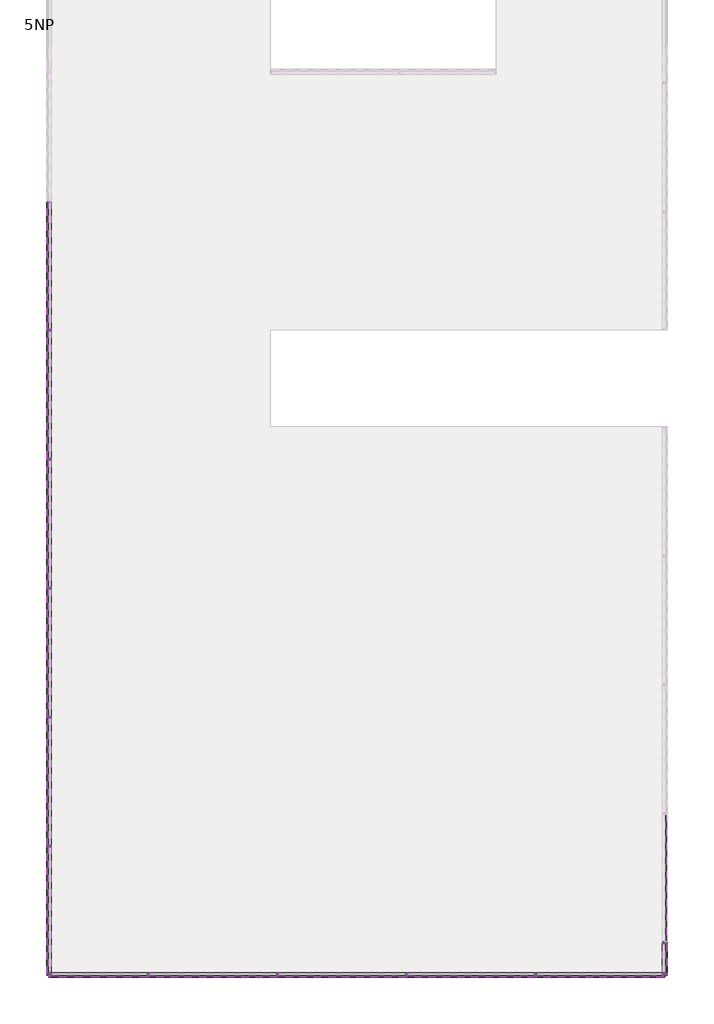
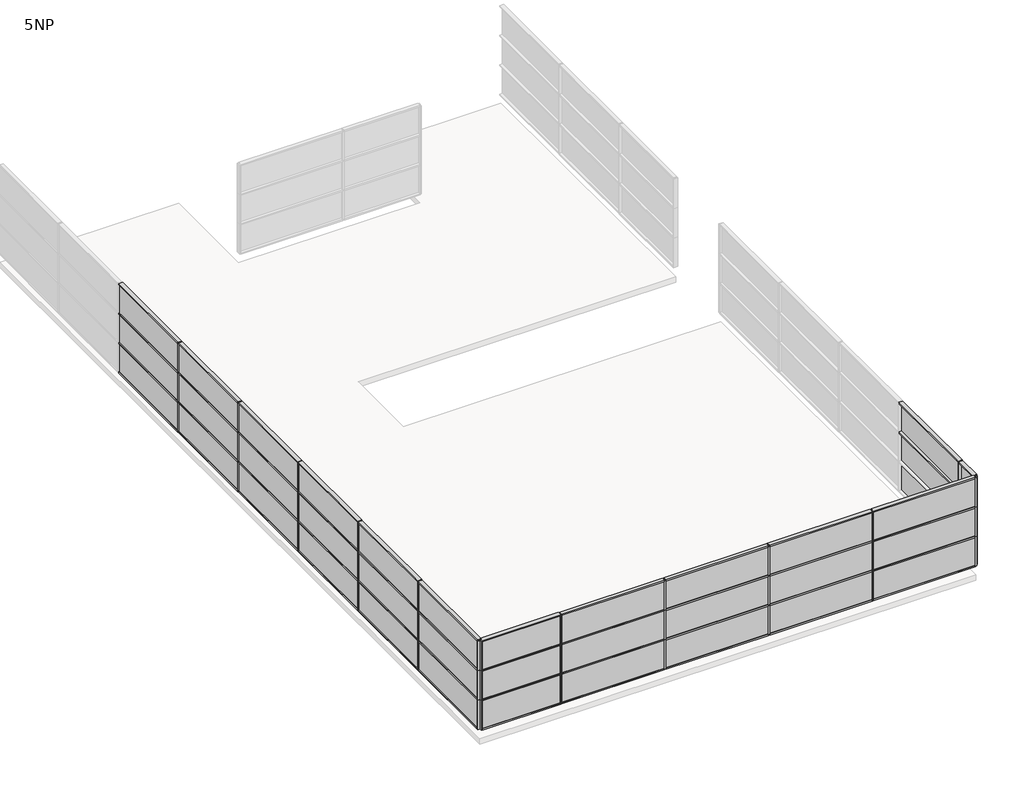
# One storey, part 1 of 3: 92 members, 39 plates.
"""IFC4 building model written with IfcOpenShell, lengths in millimetres."""

from ifc_helpers import new_model, si_unit, origin, place, context, project, spatial, transform, mapped, element, save
from components import rectangular_mullion_50_x_150mm_d99dc9be, rectangular_mullion_50_x_150mm_6588f46c, rectangular_mullion_50_x_150mm_a037c29c, rectangular_mullion_50_x_150mm_c2546fd4, rectangular_mullion_50_x_150mm_116cff39, rectangular_mullion_50_x_150mm_cd873b1a, system_panel_glazed_8e9402eb, system_panel_glazed_89ac83a7, system_panel_glazed_8c18451d, system_panel_glazed_2dc425e2

model = new_model("IFC4")

# Units and contexts
model_context = context("Model", 3, world=origin())
ifc_project = project(units=[si_unit("LENGTHUNIT", "METRE", prefix="MILLI")], contexts=[model_context])

# Site, building, storey
site = spatial("IfcSite", under=ifc_project)
building = spatial("IfcBuilding", under=site)
storey = spatial("IfcBuildingStorey", under=building, Name="5NP", Elevation=20000.0)

# Members
placement = place(None, origin())
rectangular_mullion_50_x_150mm_shape = rectangular_mullion_50_x_150mm_d99dc9be(model_context)
element("IfcMember", 1, ObjectType="Rectangular Mullion : 50 x 150mm", at=placement, inside=storey, context=model_context, shape_type="MappedRepresentation", body=[
    mapped(rectangular_mullion_50_x_150mm_shape, transform((13503.2660975, -22624.0160434, 21600.0), x_axis=(0.0, -1.0, 0.0), y_axis=(1.0, 0.0, 0.0), z_axis=(0.0, 0.0, 1.0))),
])
element("IfcMember", 2, ObjectType="Rectangular Mullion : 50 x 150mm", at=placement, inside=storey, context=model_context, shape_type="MappedRepresentation", body=[
    mapped(rectangular_mullion_50_x_150mm_shape, transform((13503.2660975, -22624.0160434, 22800.0), x_axis=(0.0, -1.0, 0.0), y_axis=(1.0, 0.0, 0.0), z_axis=(0.0, 0.0, 1.0))),
])
element("IfcMember", 3, ObjectType="Rectangular Mullion : 50 x 150mm", at=placement, inside=storey, context=model_context, shape_type="MappedRepresentation", body=[
    mapped(rectangular_mullion_50_x_150mm_shape, transform((13503.2660975, -22624.0160434, 24000.0), x_axis=(0.0, -1.0, 0.0), y_axis=(1.0, 0.0, 0.0), z_axis=(0.0, 0.0, 1.0))),
])
element("IfcMember", 4, ObjectType="Rectangular Mullion : 50 x 150mm", at=placement, inside=storey, context=model_context, shape_type="MappedRepresentation", body=[
    mapped(rectangular_mullion_50_x_150mm_shape, transform((9503.2660975, -23624.0160434, 21600.0), x_axis=(-1.0, 0.0, 0.0), y_axis=(0.0, -1.0, 0.0), z_axis=(0.0, 0.0, 1.0))),
])
element("IfcMember", 5, ObjectType="Rectangular Mullion : 50 x 150mm", at=placement, inside=storey, context=model_context, shape_type="MappedRepresentation", body=[
    mapped(rectangular_mullion_50_x_150mm_shape, transform((9503.2660975, -23624.0160434, 22800.0), x_axis=(-1.0, 0.0, 0.0), y_axis=(0.0, -1.0, 0.0), z_axis=(0.0, 0.0, 1.0))),
])
element("IfcMember", 6, ObjectType="Rectangular Mullion : 50 x 150mm", at=placement, inside=storey, context=model_context, shape_type="MappedRepresentation", body=[
    mapped(rectangular_mullion_50_x_150mm_shape, transform((9503.2660975, -23624.0160434, 24000.0), x_axis=(-1.0, 0.0, 0.0), y_axis=(0.0, -1.0, 0.0), z_axis=(0.0, 0.0, 1.0))),
])
element("IfcMember", 7, ObjectType="Rectangular Mullion : 50 x 150mm", at=placement, inside=storey, context=model_context, shape_type="MappedRepresentation", body=[
    mapped(rectangular_mullion_50_x_150mm_shape, transform((5503.2660975, -23624.0160434, 21600.0), x_axis=(-1.0, 0.0, 0.0), y_axis=(0.0, -1.0, 0.0), z_axis=(0.0, 0.0, 1.0))),
])
element("IfcMember", 8, ObjectType="Rectangular Mullion : 50 x 150mm", at=placement, inside=storey, context=model_context, shape_type="MappedRepresentation", body=[
    mapped(rectangular_mullion_50_x_150mm_shape, transform((5503.2660975, -23624.0160434, 22800.0), x_axis=(-1.0, 0.0, 0.0), y_axis=(0.0, -1.0, 0.0), z_axis=(0.0, 0.0, 1.0))),
])
element("IfcMember", 9, ObjectType="Rectangular Mullion : 50 x 150mm", at=placement, inside=storey, context=model_context, shape_type="MappedRepresentation", body=[
    mapped(rectangular_mullion_50_x_150mm_shape, transform((5503.2660975, -23624.0160434, 24000.0), x_axis=(-1.0, 0.0, 0.0), y_axis=(0.0, -1.0, 0.0), z_axis=(0.0, 0.0, 1.0))),
])
element("IfcMember", 10, ObjectType="Rectangular Mullion : 50 x 150mm", at=placement, inside=storey, context=model_context, shape_type="MappedRepresentation", body=[
    mapped(rectangular_mullion_50_x_150mm_shape, transform((1503.2660975, -23624.0160434, 21600.0), x_axis=(-1.0, 0.0, 0.0), y_axis=(0.0, -1.0, 0.0), z_axis=(0.0, 0.0, 1.0))),
])
element("IfcMember", 11, ObjectType="Rectangular Mullion : 50 x 150mm", at=placement, inside=storey, context=model_context, shape_type="MappedRepresentation", body=[
    mapped(rectangular_mullion_50_x_150mm_shape, transform((1503.2660975, -23624.0160434, 22800.0), x_axis=(-1.0, 0.0, 0.0), y_axis=(0.0, -1.0, 0.0), z_axis=(0.0, 0.0, 1.0))),
])
element("IfcMember", 12, ObjectType="Rectangular Mullion : 50 x 150mm", at=placement, inside=storey, context=model_context, shape_type="MappedRepresentation", body=[
    mapped(rectangular_mullion_50_x_150mm_shape, transform((1503.2660975, -23624.0160434, 24000.0), x_axis=(-1.0, 0.0, 0.0), y_axis=(0.0, -1.0, 0.0), z_axis=(0.0, 0.0, 1.0))),
])
element("IfcMember", 13, ObjectType="Rectangular Mullion : 50 x 150mm", at=placement, inside=storey, context=model_context, shape_type="MappedRepresentation", body=[
    mapped(rectangular_mullion_50_x_150mm_shape, transform((-2496.7339025, -23624.0160434, 21600.0), x_axis=(-1.0, 0.0, 0.0), y_axis=(0.0, -1.0, 0.0), z_axis=(0.0, 0.0, 1.0))),
])
element("IfcMember", 14, ObjectType="Rectangular Mullion : 50 x 150mm", at=placement, inside=storey, context=model_context, shape_type="MappedRepresentation", body=[
    mapped(rectangular_mullion_50_x_150mm_shape, transform((-2496.7339025, -23624.0160434, 22800.0), x_axis=(-1.0, 0.0, 0.0), y_axis=(0.0, -1.0, 0.0), z_axis=(0.0, 0.0, 1.0))),
])
element("IfcMember", 15, ObjectType="Rectangular Mullion : 50 x 150mm", at=placement, inside=storey, context=model_context, shape_type="MappedRepresentation", body=[
    mapped(rectangular_mullion_50_x_150mm_shape, transform((-2496.7339025, -23624.0160434, 24000.0), x_axis=(-1.0, 0.0, 0.0), y_axis=(0.0, -1.0, 0.0), z_axis=(0.0, 0.0, 1.0))),
])
element("IfcMember", 16, ObjectType="Rectangular Mullion : 50 x 150mm", at=placement, inside=storey, context=model_context, shape_type="MappedRepresentation", body=[
    mapped(rectangular_mullion_50_x_150mm_shape, transform((-5587.173406, -19624.0160434, 21600.0), x_axis=(0.0, 1.0, 0.0), y_axis=(-1.0, 0.0, 0.0), z_axis=(0.0, 0.0, 1.0))),
])
element("IfcMember", 17, ObjectType="Rectangular Mullion : 50 x 150mm", at=placement, inside=storey, context=model_context, shape_type="MappedRepresentation", body=[
    mapped(rectangular_mullion_50_x_150mm_shape, transform((-5587.173406, -19624.0160434, 22800.0), x_axis=(0.0, 1.0, 0.0), y_axis=(-1.0, 0.0, 0.0), z_axis=(0.0, 0.0, 1.0))),
])
element("IfcMember", 18, ObjectType="Rectangular Mullion : 50 x 150mm", at=placement, inside=storey, context=model_context, shape_type="MappedRepresentation", body=[
    mapped(rectangular_mullion_50_x_150mm_shape, transform((-5587.173406, -19624.0160434, 24000.0), x_axis=(0.0, 1.0, 0.0), y_axis=(-1.0, 0.0, 0.0), z_axis=(0.0, 0.0, 1.0))),
])
element("IfcMember", 19, ObjectType="Rectangular Mullion : 50 x 150mm", at=placement, inside=storey, context=model_context, shape_type="MappedRepresentation", body=[
    mapped(rectangular_mullion_50_x_150mm_shape, transform((-5587.173406, -15624.0160434, 21600.0), x_axis=(0.0, 1.0, 0.0), y_axis=(-1.0, 0.0, 0.0), z_axis=(0.0, 0.0, 1.0))),
])
element("IfcMember", 20, ObjectType="Rectangular Mullion : 50 x 150mm", at=placement, inside=storey, context=model_context, shape_type="MappedRepresentation", body=[
    mapped(rectangular_mullion_50_x_150mm_shape, transform((-5587.173406, -15624.0160434, 22800.0), x_axis=(0.0, 1.0, 0.0), y_axis=(-1.0, 0.0, 0.0), z_axis=(0.0, 0.0, 1.0))),
])
element("IfcMember", 21, ObjectType="Rectangular Mullion : 50 x 150mm", at=placement, inside=storey, context=model_context, shape_type="MappedRepresentation", body=[
    mapped(rectangular_mullion_50_x_150mm_shape, transform((-5587.173406, -15624.0160434, 24000.0), x_axis=(0.0, 1.0, 0.0), y_axis=(-1.0, 0.0, 0.0), z_axis=(0.0, 0.0, 1.0))),
])
element("IfcMember", 22, ObjectType="Rectangular Mullion : 50 x 150mm", at=placement, inside=storey, context=model_context, shape_type="MappedRepresentation", body=[
    mapped(rectangular_mullion_50_x_150mm_shape, transform((-5587.173406, -11624.0160434, 21600.0), x_axis=(0.0, 1.0, 0.0), y_axis=(-1.0, 0.0, 0.0), z_axis=(0.0, 0.0, 1.0))),
])
element("IfcMember", 23, ObjectType="Rectangular Mullion : 50 x 150mm", at=placement, inside=storey, context=model_context, shape_type="MappedRepresentation", body=[
    mapped(rectangular_mullion_50_x_150mm_shape, transform((-5587.173406, -11624.0160434, 22800.0), x_axis=(0.0, 1.0, 0.0), y_axis=(-1.0, 0.0, 0.0), z_axis=(0.0, 0.0, 1.0))),
])
element("IfcMember", 24, ObjectType="Rectangular Mullion : 50 x 150mm", at=placement, inside=storey, context=model_context, shape_type="MappedRepresentation", body=[
    mapped(rectangular_mullion_50_x_150mm_shape, transform((-5587.173406, -11624.0160434, 24000.0), x_axis=(0.0, 1.0, 0.0), y_axis=(-1.0, 0.0, 0.0), z_axis=(0.0, 0.0, 1.0))),
])
element("IfcMember", 25, ObjectType="Rectangular Mullion : 50 x 150mm", at=placement, inside=storey, context=model_context, shape_type="MappedRepresentation", body=[
    mapped(rectangular_mullion_50_x_150mm_shape, transform((-5587.173406, -7624.0160434, 21600.0), x_axis=(0.0, 1.0, 0.0), y_axis=(-1.0, 0.0, 0.0), z_axis=(0.0, 0.0, 1.0))),
])
element("IfcMember", 26, ObjectType="Rectangular Mullion : 50 x 150mm", at=placement, inside=storey, context=model_context, shape_type="MappedRepresentation", body=[
    mapped(rectangular_mullion_50_x_150mm_shape, transform((-5587.173406, -7624.0160434, 22800.0), x_axis=(0.0, 1.0, 0.0), y_axis=(-1.0, 0.0, 0.0), z_axis=(0.0, 0.0, 1.0))),
])
element("IfcMember", 27, ObjectType="Rectangular Mullion : 50 x 150mm", at=placement, inside=storey, context=model_context, shape_type="MappedRepresentation", body=[
    mapped(rectangular_mullion_50_x_150mm_shape, transform((-5587.173406, -7624.0160434, 24000.0), x_axis=(0.0, 1.0, 0.0), y_axis=(-1.0, 0.0, 0.0), z_axis=(0.0, 0.0, 1.0))),
])
element("IfcMember", 28, ObjectType="Rectangular Mullion : 50 x 150mm", at=placement, inside=storey, context=model_context, shape_type="MappedRepresentation", body=[
    mapped(rectangular_mullion_50_x_150mm_shape, transform((-5587.173406, -3624.0160434, 21600.0), x_axis=(0.0, 1.0, 0.0), y_axis=(-1.0, 0.0, 0.0), z_axis=(0.0, 0.0, 1.0))),
])
element("IfcMember", 29, ObjectType="Rectangular Mullion : 50 x 150mm", at=placement, inside=storey, context=model_context, shape_type="MappedRepresentation", body=[
    mapped(rectangular_mullion_50_x_150mm_shape, transform((-5587.173406, -3624.0160434, 22800.0), x_axis=(0.0, 1.0, 0.0), y_axis=(-1.0, 0.0, 0.0), z_axis=(0.0, 0.0, 1.0))),
])
element("IfcMember", 30, ObjectType="Rectangular Mullion : 50 x 150mm", at=placement, inside=storey, context=model_context, shape_type="MappedRepresentation", body=[
    mapped(rectangular_mullion_50_x_150mm_shape, transform((-5587.173406, -3624.0160434, 24000.0), x_axis=(0.0, 1.0, 0.0), y_axis=(-1.0, 0.0, 0.0), z_axis=(0.0, 0.0, 1.0))),
])
rectangular_mullion_50_x_150mm_2_shape = rectangular_mullion_50_x_150mm_6588f46c(model_context)
element("IfcMember", 31, ObjectType="Rectangular Mullion : 50 x 150mm", at=placement, inside=storey, context=model_context, shape_type="MappedRepresentation", body=[
    mapped(rectangular_mullion_50_x_150mm_2_shape, transform((13503.2660975, -23624.0160434, 21600.0), x_axis=(0.0, -1.0, 0.0), y_axis=(1.0, 0.0, 0.0), z_axis=(0.0, 0.0, 1.0))),
])
element("IfcMember", 32, ObjectType="Rectangular Mullion : 50 x 150mm", at=placement, inside=storey, context=model_context, shape_type="MappedRepresentation", body=[
    mapped(rectangular_mullion_50_x_150mm_2_shape, transform((13503.2660975, -23624.0160434, 22800.0), x_axis=(0.0, -1.0, 0.0), y_axis=(1.0, 0.0, 0.0), z_axis=(0.0, 0.0, 1.0))),
])
element("IfcMember", 33, ObjectType="Rectangular Mullion : 50 x 150mm", at=placement, inside=storey, context=model_context, shape_type="MappedRepresentation", body=[
    mapped(rectangular_mullion_50_x_150mm_2_shape, transform((13503.2660975, -23624.0160434, 24000.0), x_axis=(0.0, -1.0, 0.0), y_axis=(1.0, 0.0, 0.0), z_axis=(0.0, 0.0, 1.0))),
])
element("IfcMember", 34, ObjectType="Rectangular Mullion : 50 x 150mm", at=placement, inside=storey, context=model_context, shape_type="MappedRepresentation", body=[
    mapped(rectangular_mullion_50_x_150mm_2_shape, transform((-5587.173406, -23624.0160434, 21600.0), x_axis=(-1.0, 0.0, 0.0), y_axis=(0.0, -1.0, 0.0), z_axis=(0.0, 0.0, 1.0))),
])
element("IfcMember", 35, ObjectType="Rectangular Mullion : 50 x 150mm", at=placement, inside=storey, context=model_context, shape_type="MappedRepresentation", body=[
    mapped(rectangular_mullion_50_x_150mm_2_shape, transform((-5587.173406, -23624.0160434, 22800.0), x_axis=(-1.0, 0.0, 0.0), y_axis=(0.0, -1.0, 0.0), z_axis=(0.0, 0.0, 1.0))),
])
element("IfcMember", 36, ObjectType="Rectangular Mullion : 50 x 150mm", at=placement, inside=storey, context=model_context, shape_type="MappedRepresentation", body=[
    mapped(rectangular_mullion_50_x_150mm_2_shape, transform((-5587.173406, -23624.0160434, 24000.0), x_axis=(-1.0, 0.0, 0.0), y_axis=(0.0, -1.0, 0.0), z_axis=(0.0, 0.0, 1.0))),
])
rectangular_mullion_50_x_150mm_3_shape = rectangular_mullion_50_x_150mm_a037c29c(model_context)
element("IfcMember", 37, ObjectType="Rectangular Mullion : 50 x 150mm", at=placement, inside=storey, context=model_context, shape_type="MappedRepresentation", body=[
    mapped(rectangular_mullion_50_x_150mm_3_shape, transform((13503.2660975, -18649.0160434, 22800.0), x_axis=(0.0, 0.0, 1.0), y_axis=(1.0, 0.0, 0.0), z_axis=(0.0, 1.0, 0.0))),
])
element("IfcMember", 38, ObjectType="Rectangular Mullion : 50 x 150mm", at=placement, inside=storey, context=model_context, shape_type="MappedRepresentation", body=[
    mapped(rectangular_mullion_50_x_150mm_3_shape, transform((13503.2660975, -18649.0160434, 24000.0), x_axis=(0.0, 0.0, 1.0), y_axis=(1.0, 0.0, 0.0), z_axis=(0.0, 1.0, 0.0))),
])
element("IfcMember", 39, ObjectType="Rectangular Mullion : 50 x 150mm", at=placement, inside=storey, context=model_context, shape_type="MappedRepresentation", body=[
    mapped(rectangular_mullion_50_x_150mm_3_shape, transform((9478.2660975, -23624.0160434, 20400.0), x_axis=(0.0, 0.0, 1.0), y_axis=(0.0, -1.0, 0.0), z_axis=(1.0, 0.0, 0.0))),
])
element("IfcMember", 40, ObjectType="Rectangular Mullion : 50 x 150mm", at=placement, inside=storey, context=model_context, shape_type="MappedRepresentation", body=[
    mapped(rectangular_mullion_50_x_150mm_3_shape, transform((5478.2660975, -23624.0160434, 20400.0), x_axis=(0.0, 0.0, 1.0), y_axis=(0.0, -1.0, 0.0), z_axis=(1.0, 0.0, 0.0))),
])
element("IfcMember", 41, ObjectType="Rectangular Mullion : 50 x 150mm", at=placement, inside=storey, context=model_context, shape_type="MappedRepresentation", body=[
    mapped(rectangular_mullion_50_x_150mm_3_shape, transform((1478.2660975, -23624.0160434, 20400.0), x_axis=(0.0, 0.0, 1.0), y_axis=(0.0, -1.0, 0.0), z_axis=(1.0, 0.0, 0.0))),
])
element("IfcMember", 42, ObjectType="Rectangular Mullion : 50 x 150mm", at=placement, inside=storey, context=model_context, shape_type="MappedRepresentation", body=[
    mapped(rectangular_mullion_50_x_150mm_3_shape, transform((9478.2660975, -23624.0160434, 21600.0), x_axis=(0.0, 0.0, 1.0), y_axis=(0.0, -1.0, 0.0), z_axis=(1.0, 0.0, 0.0))),
])
element("IfcMember", 43, ObjectType="Rectangular Mullion : 50 x 150mm", at=placement, inside=storey, context=model_context, shape_type="MappedRepresentation", body=[
    mapped(rectangular_mullion_50_x_150mm_3_shape, transform((5478.2660975, -23624.0160434, 21600.0), x_axis=(0.0, 0.0, 1.0), y_axis=(0.0, -1.0, 0.0), z_axis=(1.0, 0.0, 0.0))),
])
element("IfcMember", 44, ObjectType="Rectangular Mullion : 50 x 150mm", at=placement, inside=storey, context=model_context, shape_type="MappedRepresentation", body=[
    mapped(rectangular_mullion_50_x_150mm_3_shape, transform((1478.2660975, -23624.0160434, 21600.0), x_axis=(0.0, 0.0, 1.0), y_axis=(0.0, -1.0, 0.0), z_axis=(1.0, 0.0, 0.0))),
])
element("IfcMember", 45, ObjectType="Rectangular Mullion : 50 x 150mm", at=placement, inside=storey, context=model_context, shape_type="MappedRepresentation", body=[
    mapped(rectangular_mullion_50_x_150mm_3_shape, transform((9478.2660975, -23624.0160434, 22800.0), x_axis=(0.0, 0.0, 1.0), y_axis=(0.0, -1.0, 0.0), z_axis=(1.0, 0.0, 0.0))),
])
element("IfcMember", 46, ObjectType="Rectangular Mullion : 50 x 150mm", at=placement, inside=storey, context=model_context, shape_type="MappedRepresentation", body=[
    mapped(rectangular_mullion_50_x_150mm_3_shape, transform((5478.2660975, -23624.0160434, 22800.0), x_axis=(0.0, 0.0, 1.0), y_axis=(0.0, -1.0, 0.0), z_axis=(1.0, 0.0, 0.0))),
])
element("IfcMember", 47, ObjectType="Rectangular Mullion : 50 x 150mm", at=placement, inside=storey, context=model_context, shape_type="MappedRepresentation", body=[
    mapped(rectangular_mullion_50_x_150mm_3_shape, transform((1478.2660975, -23624.0160434, 22800.0), x_axis=(0.0, 0.0, 1.0), y_axis=(0.0, -1.0, 0.0), z_axis=(1.0, 0.0, 0.0))),
])
element("IfcMember", 48, ObjectType="Rectangular Mullion : 50 x 150mm", at=placement, inside=storey, context=model_context, shape_type="MappedRepresentation", body=[
    mapped(rectangular_mullion_50_x_150mm_3_shape, transform((9478.2660975, -23624.0160434, 24000.0), x_axis=(0.0, 0.0, 1.0), y_axis=(0.0, -1.0, 0.0), z_axis=(1.0, 0.0, 0.0))),
])
element("IfcMember", 49, ObjectType="Rectangular Mullion : 50 x 150mm", at=placement, inside=storey, context=model_context, shape_type="MappedRepresentation", body=[
    mapped(rectangular_mullion_50_x_150mm_3_shape, transform((5478.2660975, -23624.0160434, 24000.0), x_axis=(0.0, 0.0, 1.0), y_axis=(0.0, -1.0, 0.0), z_axis=(1.0, 0.0, 0.0))),
])
element("IfcMember", 50, ObjectType="Rectangular Mullion : 50 x 150mm", at=placement, inside=storey, context=model_context, shape_type="MappedRepresentation", body=[
    mapped(rectangular_mullion_50_x_150mm_3_shape, transform((1478.2660975, -23624.0160434, 24000.0), x_axis=(0.0, 0.0, 1.0), y_axis=(0.0, -1.0, 0.0), z_axis=(1.0, 0.0, 0.0))),
])
element("IfcMember", 51, ObjectType="Rectangular Mullion : 50 x 150mm", at=placement, inside=storey, context=model_context, shape_type="MappedRepresentation", body=[
    mapped(rectangular_mullion_50_x_150mm_3_shape, transform((-5587.173406, -19599.0160434, 20400.0), x_axis=(0.0, 0.0, 1.0), y_axis=(-1.0, 0.0, 0.0), z_axis=(0.0, -1.0, 0.0))),
])
element("IfcMember", 52, ObjectType="Rectangular Mullion : 50 x 150mm", at=placement, inside=storey, context=model_context, shape_type="MappedRepresentation", body=[
    mapped(rectangular_mullion_50_x_150mm_3_shape, transform((-5587.173406, -15599.0160434, 20400.0), x_axis=(0.0, 0.0, 1.0), y_axis=(-1.0, 0.0, 0.0), z_axis=(0.0, -1.0, 0.0))),
])
element("IfcMember", 53, ObjectType="Rectangular Mullion : 50 x 150mm", at=placement, inside=storey, context=model_context, shape_type="MappedRepresentation", body=[
    mapped(rectangular_mullion_50_x_150mm_3_shape, transform((-5587.173406, -11599.0160434, 20400.0), x_axis=(0.0, 0.0, 1.0), y_axis=(-1.0, 0.0, 0.0), z_axis=(0.0, -1.0, 0.0))),
])
element("IfcMember", 54, ObjectType="Rectangular Mullion : 50 x 150mm", at=placement, inside=storey, context=model_context, shape_type="MappedRepresentation", body=[
    mapped(rectangular_mullion_50_x_150mm_3_shape, transform((-5587.173406, -7599.0160434, 20400.0), x_axis=(0.0, 0.0, 1.0), y_axis=(-1.0, 0.0, 0.0), z_axis=(0.0, -1.0, 0.0))),
])
element("IfcMember", 55, ObjectType="Rectangular Mullion : 50 x 150mm", at=placement, inside=storey, context=model_context, shape_type="MappedRepresentation", body=[
    mapped(rectangular_mullion_50_x_150mm_3_shape, transform((-5587.173406, -3599.0160434, 20400.0), x_axis=(0.0, 0.0, 1.0), y_axis=(-1.0, 0.0, 0.0), z_axis=(0.0, -1.0, 0.0))),
])
element("IfcMember", 56, ObjectType="Rectangular Mullion : 50 x 150mm", at=placement, inside=storey, context=model_context, shape_type="MappedRepresentation", body=[
    mapped(rectangular_mullion_50_x_150mm_3_shape, transform((-5587.173406, -19599.0160434, 21600.0), x_axis=(0.0, 0.0, 1.0), y_axis=(-1.0, 0.0, 0.0), z_axis=(0.0, -1.0, 0.0))),
])
element("IfcMember", 57, ObjectType="Rectangular Mullion : 50 x 150mm", at=placement, inside=storey, context=model_context, shape_type="MappedRepresentation", body=[
    mapped(rectangular_mullion_50_x_150mm_3_shape, transform((-5587.173406, -15599.0160434, 21600.0), x_axis=(0.0, 0.0, 1.0), y_axis=(-1.0, 0.0, 0.0), z_axis=(0.0, -1.0, 0.0))),
])
element("IfcMember", 58, ObjectType="Rectangular Mullion : 50 x 150mm", at=placement, inside=storey, context=model_context, shape_type="MappedRepresentation", body=[
    mapped(rectangular_mullion_50_x_150mm_3_shape, transform((-5587.173406, -11599.0160434, 21600.0), x_axis=(0.0, 0.0, 1.0), y_axis=(-1.0, 0.0, 0.0), z_axis=(0.0, -1.0, 0.0))),
])
element("IfcMember", 59, ObjectType="Rectangular Mullion : 50 x 150mm", at=placement, inside=storey, context=model_context, shape_type="MappedRepresentation", body=[
    mapped(rectangular_mullion_50_x_150mm_3_shape, transform((-5587.173406, -7599.0160434, 21600.0), x_axis=(0.0, 0.0, 1.0), y_axis=(-1.0, 0.0, 0.0), z_axis=(0.0, -1.0, 0.0))),
])
element("IfcMember", 60, ObjectType="Rectangular Mullion : 50 x 150mm", at=placement, inside=storey, context=model_context, shape_type="MappedRepresentation", body=[
    mapped(rectangular_mullion_50_x_150mm_3_shape, transform((-5587.173406, -3599.0160434, 21600.0), x_axis=(0.0, 0.0, 1.0), y_axis=(-1.0, 0.0, 0.0), z_axis=(0.0, -1.0, 0.0))),
])
element("IfcMember", 61, ObjectType="Rectangular Mullion : 50 x 150mm", at=placement, inside=storey, context=model_context, shape_type="MappedRepresentation", body=[
    mapped(rectangular_mullion_50_x_150mm_3_shape, transform((-5587.173406, -19599.0160434, 22800.0), x_axis=(0.0, 0.0, 1.0), y_axis=(-1.0, 0.0, 0.0), z_axis=(0.0, -1.0, 0.0))),
])
element("IfcMember", 62, ObjectType="Rectangular Mullion : 50 x 150mm", at=placement, inside=storey, context=model_context, shape_type="MappedRepresentation", body=[
    mapped(rectangular_mullion_50_x_150mm_3_shape, transform((-5587.173406, -15599.0160434, 22800.0), x_axis=(0.0, 0.0, 1.0), y_axis=(-1.0, 0.0, 0.0), z_axis=(0.0, -1.0, 0.0))),
])
element("IfcMember", 63, ObjectType="Rectangular Mullion : 50 x 150mm", at=placement, inside=storey, context=model_context, shape_type="MappedRepresentation", body=[
    mapped(rectangular_mullion_50_x_150mm_3_shape, transform((-5587.173406, -11599.0160434, 22800.0), x_axis=(0.0, 0.0, 1.0), y_axis=(-1.0, 0.0, 0.0), z_axis=(0.0, -1.0, 0.0))),
])
element("IfcMember", 64, ObjectType="Rectangular Mullion : 50 x 150mm", at=placement, inside=storey, context=model_context, shape_type="MappedRepresentation", body=[
    mapped(rectangular_mullion_50_x_150mm_3_shape, transform((-5587.173406, -7599.0160434, 22800.0), x_axis=(0.0, 0.0, 1.0), y_axis=(-1.0, 0.0, 0.0), z_axis=(0.0, -1.0, 0.0))),
])
element("IfcMember", 65, ObjectType="Rectangular Mullion : 50 x 150mm", at=placement, inside=storey, context=model_context, shape_type="MappedRepresentation", body=[
    mapped(rectangular_mullion_50_x_150mm_3_shape, transform((-5587.173406, -3599.0160434, 22800.0), x_axis=(0.0, 0.0, 1.0), y_axis=(-1.0, 0.0, 0.0), z_axis=(0.0, -1.0, 0.0))),
])
element("IfcMember", 66, ObjectType="Rectangular Mullion : 50 x 150mm", at=placement, inside=storey, context=model_context, shape_type="MappedRepresentation", body=[
    mapped(rectangular_mullion_50_x_150mm_3_shape, transform((-5587.173406, -19599.0160434, 24000.0), x_axis=(0.0, 0.0, 1.0), y_axis=(-1.0, 0.0, 0.0), z_axis=(0.0, -1.0, 0.0))),
])
element("IfcMember", 67, ObjectType="Rectangular Mullion : 50 x 150mm", at=placement, inside=storey, context=model_context, shape_type="MappedRepresentation", body=[
    mapped(rectangular_mullion_50_x_150mm_3_shape, transform((-5587.173406, -15599.0160434, 24000.0), x_axis=(0.0, 0.0, 1.0), y_axis=(-1.0, 0.0, 0.0), z_axis=(0.0, -1.0, 0.0))),
])
element("IfcMember", 68, ObjectType="Rectangular Mullion : 50 x 150mm", at=placement, inside=storey, context=model_context, shape_type="MappedRepresentation", body=[
    mapped(rectangular_mullion_50_x_150mm_3_shape, transform((-5587.173406, -11599.0160434, 24000.0), x_axis=(0.0, 0.0, 1.0), y_axis=(-1.0, 0.0, 0.0), z_axis=(0.0, -1.0, 0.0))),
])
element("IfcMember", 69, ObjectType="Rectangular Mullion : 50 x 150mm", at=placement, inside=storey, context=model_context, shape_type="MappedRepresentation", body=[
    mapped(rectangular_mullion_50_x_150mm_3_shape, transform((-5587.173406, -7599.0160434, 24000.0), x_axis=(0.0, 0.0, 1.0), y_axis=(-1.0, 0.0, 0.0), z_axis=(0.0, -1.0, 0.0))),
])
element("IfcMember", 70, ObjectType="Rectangular Mullion : 50 x 150mm", at=placement, inside=storey, context=model_context, shape_type="MappedRepresentation", body=[
    mapped(rectangular_mullion_50_x_150mm_3_shape, transform((-5587.173406, -3599.0160434, 24000.0), x_axis=(0.0, 0.0, 1.0), y_axis=(-1.0, 0.0, 0.0), z_axis=(0.0, -1.0, 0.0))),
])
rectangular_mullion_50_x_150mm_4_shape = rectangular_mullion_50_x_150mm_c2546fd4(model_context)
element("IfcMember", 71, ObjectType="Rectangular Mullion : 50 x 150mm", at=placement, inside=storey, context=model_context, shape_type="MappedRepresentation", body=[
    mapped(rectangular_mullion_50_x_150mm_4_shape, transform((13453.2660975, -23624.0160434, 20400.0), x_axis=(0.0, 0.0, 1.0), y_axis=(0.0, -1.0, 0.0), z_axis=(1.0, 0.0, 0.0))),
])
element("IfcMember", 72, ObjectType="Rectangular Mullion : 50 x 150mm", at=placement, inside=storey, context=model_context, shape_type="MappedRepresentation", body=[
    mapped(rectangular_mullion_50_x_150mm_4_shape, transform((13453.2660975, -23624.0160434, 21600.0), x_axis=(0.0, 0.0, 1.0), y_axis=(0.0, -1.0, 0.0), z_axis=(1.0, 0.0, 0.0))),
])
element("IfcMember", 73, ObjectType="Rectangular Mullion : 50 x 150mm", at=placement, inside=storey, context=model_context, shape_type="MappedRepresentation", body=[
    mapped(rectangular_mullion_50_x_150mm_4_shape, transform((13453.2660975, -23624.0160434, 22800.0), x_axis=(0.0, 0.0, 1.0), y_axis=(0.0, -1.0, 0.0), z_axis=(1.0, 0.0, 0.0))),
])
element("IfcMember", 74, ObjectType="Rectangular Mullion : 50 x 150mm", at=placement, inside=storey, context=model_context, shape_type="MappedRepresentation", body=[
    mapped(rectangular_mullion_50_x_150mm_4_shape, transform((13453.2660975, -23624.0160434, 24000.0), x_axis=(0.0, 0.0, 1.0), y_axis=(0.0, -1.0, 0.0), z_axis=(1.0, 0.0, 0.0))),
])
element("IfcMember", 75, ObjectType="Rectangular Mullion : 50 x 150mm", at=placement, inside=storey, context=model_context, shape_type="MappedRepresentation", body=[
    mapped(rectangular_mullion_50_x_150mm_4_shape, transform((-5587.173406, -23574.0160434, 20400.0), x_axis=(0.0, 0.0, 1.0), y_axis=(-1.0, 0.0, 0.0), z_axis=(0.0, -1.0, 0.0))),
])
element("IfcMember", 76, ObjectType="Rectangular Mullion : 50 x 150mm", at=placement, inside=storey, context=model_context, shape_type="MappedRepresentation", body=[
    mapped(rectangular_mullion_50_x_150mm_4_shape, transform((-5587.173406, -23574.0160434, 21600.0), x_axis=(0.0, 0.0, 1.0), y_axis=(-1.0, 0.0, 0.0), z_axis=(0.0, -1.0, 0.0))),
])
element("IfcMember", 77, ObjectType="Rectangular Mullion : 50 x 150mm", at=placement, inside=storey, context=model_context, shape_type="MappedRepresentation", body=[
    mapped(rectangular_mullion_50_x_150mm_4_shape, transform((-5587.173406, -23574.0160434, 22800.0), x_axis=(0.0, 0.0, 1.0), y_axis=(-1.0, 0.0, 0.0), z_axis=(0.0, -1.0, 0.0))),
])
element("IfcMember", 78, ObjectType="Rectangular Mullion : 50 x 150mm", at=placement, inside=storey, context=model_context, shape_type="MappedRepresentation", body=[
    mapped(rectangular_mullion_50_x_150mm_4_shape, transform((-5587.173406, -23574.0160434, 24000.0), x_axis=(0.0, 0.0, 1.0), y_axis=(-1.0, 0.0, 0.0), z_axis=(0.0, -1.0, 0.0))),
])
element("IfcMember", 79, ObjectType="Rectangular Mullion : 50 x 150mm", at=placement, inside=storey, context=model_context, shape_type="MappedRepresentation", body=[
    mapped(rectangular_mullion_50_x_150mm_2_shape, transform((13503.2660975, -23624.0160434, 20400.0), x_axis=(1.0, 0.0, 0.0), y_axis=(0.0, -1.0, 0.0), z_axis=(0.0, 0.0, -1.0))),
])
element("IfcMember", 80, ObjectType="Rectangular Mullion : 50 x 150mm", at=placement, inside=storey, context=model_context, shape_type="MappedRepresentation", body=[
    mapped(rectangular_mullion_50_x_150mm_2_shape, transform((13503.2660975, -23624.0160434, 21600.0), x_axis=(1.0, 0.0, 0.0), y_axis=(0.0, -1.0, 0.0), z_axis=(0.0, 0.0, -1.0))),
])
element("IfcMember", 81, ObjectType="Rectangular Mullion : 50 x 150mm", at=placement, inside=storey, context=model_context, shape_type="MappedRepresentation", body=[
    mapped(rectangular_mullion_50_x_150mm_2_shape, transform((13503.2660975, -23624.0160434, 22800.0), x_axis=(1.0, 0.0, 0.0), y_axis=(0.0, -1.0, 0.0), z_axis=(0.0, 0.0, -1.0))),
])
element("IfcMember", 82, ObjectType="Rectangular Mullion : 50 x 150mm", at=placement, inside=storey, context=model_context, shape_type="MappedRepresentation", body=[
    mapped(rectangular_mullion_50_x_150mm_2_shape, transform((-5587.173406, -23624.0160434, 20400.0), x_axis=(0.0, -1.0, 0.0), y_axis=(-1.0, 0.0, 0.0), z_axis=(0.0, 0.0, -1.0))),
])
element("IfcMember", 83, ObjectType="Rectangular Mullion : 50 x 150mm", at=placement, inside=storey, context=model_context, shape_type="MappedRepresentation", body=[
    mapped(rectangular_mullion_50_x_150mm_2_shape, transform((-5587.173406, -23624.0160434, 21600.0), x_axis=(0.0, -1.0, 0.0), y_axis=(-1.0, 0.0, 0.0), z_axis=(0.0, 0.0, -1.0))),
])
element("IfcMember", 84, ObjectType="Rectangular Mullion : 50 x 150mm", at=placement, inside=storey, context=model_context, shape_type="MappedRepresentation", body=[
    mapped(rectangular_mullion_50_x_150mm_2_shape, transform((-5587.173406, -23624.0160434, 22800.0), x_axis=(0.0, -1.0, 0.0), y_axis=(-1.0, 0.0, 0.0), z_axis=(0.0, 0.0, -1.0))),
])
rectangular_mullion_50_x_150mm_5_shape = rectangular_mullion_50_x_150mm_116cff39(model_context)
element("IfcMember", 85, ObjectType="Rectangular Mullion : 50 x 150mm", at=placement, inside=storey, context=model_context, shape_type="MappedRepresentation", body=[
    mapped(rectangular_mullion_50_x_150mm_5_shape, transform((13503.2660975, -22649.0160434, 22800.0), x_axis=(0.0, 0.0, 1.0), y_axis=(1.0, 0.0, 0.0), z_axis=(0.0, 1.0, 0.0))),
])
element("IfcMember", 86, ObjectType="Rectangular Mullion : 50 x 150mm", at=placement, inside=storey, context=model_context, shape_type="MappedRepresentation", body=[
    mapped(rectangular_mullion_50_x_150mm_5_shape, transform((13503.2660975, -22649.0160434, 24000.0), x_axis=(0.0, 0.0, 1.0), y_axis=(1.0, 0.0, 0.0), z_axis=(0.0, 1.0, 0.0))),
])
element("IfcMember", 87, ObjectType="Rectangular Mullion : 50 x 150mm", at=placement, inside=storey, context=model_context, shape_type="MappedRepresentation", body=[
    mapped(rectangular_mullion_50_x_150mm_5_shape, transform((13503.2660975, -22649.0160434, 20400.0), x_axis=(0.0, 0.0, 1.0), y_axis=(1.0, 0.0, 0.0), z_axis=(0.0, 1.0, 0.0))),
])
element("IfcMember", 88, ObjectType="Rectangular Mullion : 50 x 150mm", at=placement, inside=storey, context=model_context, shape_type="MappedRepresentation", body=[
    mapped(rectangular_mullion_50_x_150mm_5_shape, transform((13503.2660975, -22649.0160434, 21600.0), x_axis=(0.0, 0.0, 1.0), y_axis=(1.0, 0.0, 0.0), z_axis=(0.0, 1.0, 0.0))),
])
rectangular_mullion_50_x_150mm_6_shape = rectangular_mullion_50_x_150mm_cd873b1a(model_context)
element("IfcMember", 89, ObjectType="Rectangular Mullion : 50 x 150mm", at=placement, inside=storey, context=model_context, shape_type="MappedRepresentation", body=[
    mapped(rectangular_mullion_50_x_150mm_6_shape, transform((-2521.7339025, -23624.0160434, 20400.0), x_axis=(0.0, 0.0, 1.0), y_axis=(0.0, -1.0, 0.0), z_axis=(1.0, 0.0, 0.0))),
])
element("IfcMember", 90, ObjectType="Rectangular Mullion : 50 x 150mm", at=placement, inside=storey, context=model_context, shape_type="MappedRepresentation", body=[
    mapped(rectangular_mullion_50_x_150mm_6_shape, transform((-2521.7339025, -23624.0160434, 21600.0), x_axis=(0.0, 0.0, 1.0), y_axis=(0.0, -1.0, 0.0), z_axis=(1.0, 0.0, 0.0))),
])
element("IfcMember", 91, ObjectType="Rectangular Mullion : 50 x 150mm", at=placement, inside=storey, context=model_context, shape_type="MappedRepresentation", body=[
    mapped(rectangular_mullion_50_x_150mm_6_shape, transform((-2521.7339025, -23624.0160434, 22800.0), x_axis=(0.0, 0.0, 1.0), y_axis=(0.0, -1.0, 0.0), z_axis=(1.0, 0.0, 0.0))),
])
element("IfcMember", 92, ObjectType="Rectangular Mullion : 50 x 150mm", at=placement, inside=storey, context=model_context, shape_type="MappedRepresentation", body=[
    mapped(rectangular_mullion_50_x_150mm_6_shape, transform((-2521.7339025, -23624.0160434, 24000.0), x_axis=(0.0, 0.0, 1.0), y_axis=(0.0, -1.0, 0.0), z_axis=(1.0, 0.0, 0.0))),
])

# Plates
system_panel_glazed_shape = system_panel_glazed_8e9402eb(model_context)
element("IfcPlate", 93, ObjectType="System Panel : Glazed", at=placement, inside=storey, context=model_context, shape_type="MappedRepresentation", body=[
    mapped(system_panel_glazed_shape, transform((-5587.173406, -21611.5160434, 20425.0), x_axis=(0.0, 1.0, 0.0), y_axis=(-1.0, 0.0, 0.0), z_axis=(0.0, 0.0, 1.0))),
])
element("IfcPlate", 94, ObjectType="System Panel : Glazed", at=placement, inside=storey, context=model_context, shape_type="MappedRepresentation", body=[
    mapped(system_panel_glazed_shape, transform((-5587.173406, -21611.5160434, 21625.0), x_axis=(0.0, 1.0, 0.0), y_axis=(-1.0, 0.0, 0.0), z_axis=(0.0, 0.0, 1.0))),
])
element("IfcPlate", 95, ObjectType="System Panel : Glazed", at=placement, inside=storey, context=model_context, shape_type="MappedRepresentation", body=[
    mapped(system_panel_glazed_shape, transform((11490.7660975, -23624.0160434, 20425.0), x_axis=(-1.0, 0.0, 0.0), y_axis=(0.0, -1.0, 0.0), z_axis=(0.0, 0.0, 1.0))),
])
element("IfcPlate", 96, ObjectType="System Panel : Glazed", at=placement, inside=storey, context=model_context, shape_type="MappedRepresentation", body=[
    mapped(system_panel_glazed_shape, transform((11490.7660975, -23624.0160434, 21625.0), x_axis=(-1.0, 0.0, 0.0), y_axis=(0.0, -1.0, 0.0), z_axis=(0.0, 0.0, 1.0))),
])
element("IfcPlate", 97, ObjectType="System Panel : Glazed", at=placement, inside=storey, context=model_context, shape_type="MappedRepresentation", body=[
    mapped(system_panel_glazed_shape, transform((-5587.173406, -21611.5160434, 22825.0), x_axis=(0.0, 1.0, 0.0), y_axis=(-1.0, 0.0, 0.0), z_axis=(0.0, 0.0, 1.0))),
])
element("IfcPlate", 98, ObjectType="System Panel : Glazed", at=placement, inside=storey, context=model_context, shape_type="MappedRepresentation", body=[
    mapped(system_panel_glazed_shape, transform((11490.7660975, -23624.0160434, 22825.0), x_axis=(-1.0, 0.0, 0.0), y_axis=(0.0, -1.0, 0.0), z_axis=(0.0, 0.0, 1.0))),
])
system_panel_glazed_2_shape = system_panel_glazed_89ac83a7(model_context)
element("IfcPlate", 99, ObjectType="System Panel : Glazed", at=placement, inside=storey, context=model_context, shape_type="MappedRepresentation", body=[
    mapped(system_panel_glazed_2_shape, transform((-5587.173406, -17624.0160434, 20425.0), x_axis=(0.0, 1.0, 0.0), y_axis=(-1.0, 0.0, 0.0), z_axis=(0.0, 0.0, 1.0))),
])
element("IfcPlate", 100, ObjectType="System Panel : Glazed", at=placement, inside=storey, context=model_context, shape_type="MappedRepresentation", body=[
    mapped(system_panel_glazed_2_shape, transform((-5587.173406, -13624.0160434, 20425.0), x_axis=(0.0, 1.0, 0.0), y_axis=(-1.0, 0.0, 0.0), z_axis=(0.0, 0.0, 1.0))),
])
element("IfcPlate", 101, ObjectType="System Panel : Glazed", at=placement, inside=storey, context=model_context, shape_type="MappedRepresentation", body=[
    mapped(system_panel_glazed_2_shape, transform((-5587.173406, -9624.0160434, 20425.0), x_axis=(0.0, 1.0, 0.0), y_axis=(-1.0, 0.0, 0.0), z_axis=(0.0, 0.0, 1.0))),
])
element("IfcPlate", 102, ObjectType="System Panel : Glazed", at=placement, inside=storey, context=model_context, shape_type="MappedRepresentation", body=[
    mapped(system_panel_glazed_2_shape, transform((-5587.173406, -5624.0160434, 20425.0), x_axis=(0.0, 1.0, 0.0), y_axis=(-1.0, 0.0, 0.0), z_axis=(0.0, 0.0, 1.0))),
])
element("IfcPlate", 103, ObjectType="System Panel : Glazed", at=placement, inside=storey, context=model_context, shape_type="MappedRepresentation", body=[
    mapped(system_panel_glazed_2_shape, transform((-5587.173406, -1624.0160434, 20425.0), x_axis=(0.0, 1.0, 0.0), y_axis=(-1.0, 0.0, 0.0), z_axis=(0.0, 0.0, 1.0))),
])
element("IfcPlate", 104, ObjectType="System Panel : Glazed", at=placement, inside=storey, context=model_context, shape_type="MappedRepresentation", body=[
    mapped(system_panel_glazed_2_shape, transform((-5587.173406, -17624.0160434, 21625.0), x_axis=(0.0, 1.0, 0.0), y_axis=(-1.0, 0.0, 0.0), z_axis=(0.0, 0.0, 1.0))),
])
element("IfcPlate", 105, ObjectType="System Panel : Glazed", at=placement, inside=storey, context=model_context, shape_type="MappedRepresentation", body=[
    mapped(system_panel_glazed_2_shape, transform((-5587.173406, -13624.0160434, 21625.0), x_axis=(0.0, 1.0, 0.0), y_axis=(-1.0, 0.0, 0.0), z_axis=(0.0, 0.0, 1.0))),
])
element("IfcPlate", 106, ObjectType="System Panel : Glazed", at=placement, inside=storey, context=model_context, shape_type="MappedRepresentation", body=[
    mapped(system_panel_glazed_2_shape, transform((-5587.173406, -9624.0160434, 21625.0), x_axis=(0.0, 1.0, 0.0), y_axis=(-1.0, 0.0, 0.0), z_axis=(0.0, 0.0, 1.0))),
])
element("IfcPlate", 107, ObjectType="System Panel : Glazed", at=placement, inside=storey, context=model_context, shape_type="MappedRepresentation", body=[
    mapped(system_panel_glazed_2_shape, transform((-5587.173406, -5624.0160434, 21625.0), x_axis=(0.0, 1.0, 0.0), y_axis=(-1.0, 0.0, 0.0), z_axis=(0.0, 0.0, 1.0))),
])
element("IfcPlate", 108, ObjectType="System Panel : Glazed", at=placement, inside=storey, context=model_context, shape_type="MappedRepresentation", body=[
    mapped(system_panel_glazed_2_shape, transform((-5587.173406, -1624.0160434, 21625.0), x_axis=(0.0, 1.0, 0.0), y_axis=(-1.0, 0.0, 0.0), z_axis=(0.0, 0.0, 1.0))),
])
element("IfcPlate", 109, ObjectType="System Panel : Glazed", at=placement, inside=storey, context=model_context, shape_type="MappedRepresentation", body=[
    mapped(system_panel_glazed_2_shape, transform((7503.2660975, -23624.0160434, 20425.0), x_axis=(-1.0, 0.0, 0.0), y_axis=(0.0, -1.0, 0.0), z_axis=(0.0, 0.0, 1.0))),
])
element("IfcPlate", 110, ObjectType="System Panel : Glazed", at=placement, inside=storey, context=model_context, shape_type="MappedRepresentation", body=[
    mapped(system_panel_glazed_2_shape, transform((3503.2660975, -23624.0160434, 20425.0), x_axis=(-1.0, 0.0, 0.0), y_axis=(0.0, -1.0, 0.0), z_axis=(0.0, 0.0, 1.0))),
])
element("IfcPlate", 111, ObjectType="System Panel : Glazed", at=placement, inside=storey, context=model_context, shape_type="MappedRepresentation", body=[
    mapped(system_panel_glazed_2_shape, transform((-496.7339025, -23624.0160434, 20425.0), x_axis=(-1.0, 0.0, 0.0), y_axis=(0.0, -1.0, 0.0), z_axis=(0.0, 0.0, 1.0))),
])
element("IfcPlate", 112, ObjectType="System Panel : Glazed", at=placement, inside=storey, context=model_context, shape_type="MappedRepresentation", body=[
    mapped(system_panel_glazed_2_shape, transform((7503.2660975, -23624.0160434, 21625.0), x_axis=(-1.0, 0.0, 0.0), y_axis=(0.0, -1.0, 0.0), z_axis=(0.0, 0.0, 1.0))),
])
element("IfcPlate", 113, ObjectType="System Panel : Glazed", at=placement, inside=storey, context=model_context, shape_type="MappedRepresentation", body=[
    mapped(system_panel_glazed_2_shape, transform((3503.2660975, -23624.0160434, 21625.0), x_axis=(-1.0, 0.0, 0.0), y_axis=(0.0, -1.0, 0.0), z_axis=(0.0, 0.0, 1.0))),
])
element("IfcPlate", 114, ObjectType="System Panel : Glazed", at=placement, inside=storey, context=model_context, shape_type="MappedRepresentation", body=[
    mapped(system_panel_glazed_2_shape, transform((-496.7339025, -23624.0160434, 21625.0), x_axis=(-1.0, 0.0, 0.0), y_axis=(0.0, -1.0, 0.0), z_axis=(0.0, 0.0, 1.0))),
])
element("IfcPlate", 115, ObjectType="System Panel : Glazed", at=placement, inside=storey, context=model_context, shape_type="MappedRepresentation", body=[
    mapped(system_panel_glazed_2_shape, transform((13503.2660975, -20624.0160434, 20425.0), x_axis=(0.0, -1.0, 0.0), y_axis=(1.0, 0.0, 0.0), z_axis=(0.0, 0.0, 1.0))),
])
element("IfcPlate", 116, ObjectType="System Panel : Glazed", at=placement, inside=storey, context=model_context, shape_type="MappedRepresentation", body=[
    mapped(system_panel_glazed_2_shape, transform((13503.2660975, -20624.0160434, 21625.0), x_axis=(0.0, -1.0, 0.0), y_axis=(1.0, 0.0, 0.0), z_axis=(0.0, 0.0, 1.0))),
])
element("IfcPlate", 117, ObjectType="System Panel : Glazed", at=placement, inside=storey, context=model_context, shape_type="MappedRepresentation", body=[
    mapped(system_panel_glazed_2_shape, transform((-5587.173406, -17624.0160434, 22825.0), x_axis=(0.0, 1.0, 0.0), y_axis=(-1.0, 0.0, 0.0), z_axis=(0.0, 0.0, 1.0))),
])
element("IfcPlate", 118, ObjectType="System Panel : Glazed", at=placement, inside=storey, context=model_context, shape_type="MappedRepresentation", body=[
    mapped(system_panel_glazed_2_shape, transform((-5587.173406, -13624.0160434, 22825.0), x_axis=(0.0, 1.0, 0.0), y_axis=(-1.0, 0.0, 0.0), z_axis=(0.0, 0.0, 1.0))),
])
element("IfcPlate", 119, ObjectType="System Panel : Glazed", at=placement, inside=storey, context=model_context, shape_type="MappedRepresentation", body=[
    mapped(system_panel_glazed_2_shape, transform((-5587.173406, -9624.0160434, 22825.0), x_axis=(0.0, 1.0, 0.0), y_axis=(-1.0, 0.0, 0.0), z_axis=(0.0, 0.0, 1.0))),
])
element("IfcPlate", 120, ObjectType="System Panel : Glazed", at=placement, inside=storey, context=model_context, shape_type="MappedRepresentation", body=[
    mapped(system_panel_glazed_2_shape, transform((-5587.173406, -5624.0160434, 22825.0), x_axis=(0.0, 1.0, 0.0), y_axis=(-1.0, 0.0, 0.0), z_axis=(0.0, 0.0, 1.0))),
])
element("IfcPlate", 121, ObjectType="System Panel : Glazed", at=placement, inside=storey, context=model_context, shape_type="MappedRepresentation", body=[
    mapped(system_panel_glazed_2_shape, transform((-5587.173406, -1624.0160434, 22825.0), x_axis=(0.0, 1.0, 0.0), y_axis=(-1.0, 0.0, 0.0), z_axis=(0.0, 0.0, 1.0))),
])
element("IfcPlate", 122, ObjectType="System Panel : Glazed", at=placement, inside=storey, context=model_context, shape_type="MappedRepresentation", body=[
    mapped(system_panel_glazed_2_shape, transform((7503.2660975, -23624.0160434, 22825.0), x_axis=(-1.0, 0.0, 0.0), y_axis=(0.0, -1.0, 0.0), z_axis=(0.0, 0.0, 1.0))),
])
element("IfcPlate", 123, ObjectType="System Panel : Glazed", at=placement, inside=storey, context=model_context, shape_type="MappedRepresentation", body=[
    mapped(system_panel_glazed_2_shape, transform((3503.2660975, -23624.0160434, 22825.0), x_axis=(-1.0, 0.0, 0.0), y_axis=(0.0, -1.0, 0.0), z_axis=(0.0, 0.0, 1.0))),
])
element("IfcPlate", 124, ObjectType="System Panel : Glazed", at=placement, inside=storey, context=model_context, shape_type="MappedRepresentation", body=[
    mapped(system_panel_glazed_2_shape, transform((-496.7339025, -23624.0160434, 22825.0), x_axis=(-1.0, 0.0, 0.0), y_axis=(0.0, -1.0, 0.0), z_axis=(0.0, 0.0, 1.0))),
])
element("IfcPlate", 125, ObjectType="System Panel : Glazed", at=placement, inside=storey, context=model_context, shape_type="MappedRepresentation", body=[
    mapped(system_panel_glazed_2_shape, transform((13503.2660975, -20624.0160434, 22825.0), x_axis=(0.0, -1.0, 0.0), y_axis=(1.0, 0.0, 0.0), z_axis=(0.0, 0.0, 1.0))),
])
system_panel_glazed_3_shape = system_panel_glazed_8c18451d(model_context)
element("IfcPlate", 126, ObjectType="System Panel : Glazed", at=placement, inside=storey, context=model_context, shape_type="MappedRepresentation", body=[
    mapped(system_panel_glazed_3_shape, transform((13503.2660975, -23111.5160434, 20425.0), x_axis=(0.0, -1.0, 0.0), y_axis=(1.0, 0.0, 0.0), z_axis=(0.0, 0.0, 1.0))),
])
element("IfcPlate", 127, ObjectType="System Panel : Glazed", at=placement, inside=storey, context=model_context, shape_type="MappedRepresentation", body=[
    mapped(system_panel_glazed_3_shape, transform((13503.2660975, -23111.5160434, 21625.0), x_axis=(0.0, -1.0, 0.0), y_axis=(1.0, 0.0, 0.0), z_axis=(0.0, 0.0, 1.0))),
])
element("IfcPlate", 128, ObjectType="System Panel : Glazed", at=placement, inside=storey, context=model_context, shape_type="MappedRepresentation", body=[
    mapped(system_panel_glazed_3_shape, transform((13503.2660975, -23111.5160434, 22825.0), x_axis=(0.0, -1.0, 0.0), y_axis=(1.0, 0.0, 0.0), z_axis=(0.0, 0.0, 1.0))),
])
system_panel_glazed_4_shape = system_panel_glazed_2dc425e2(model_context)
element("IfcPlate", 129, ObjectType="System Panel : Glazed", at=placement, inside=storey, context=model_context, shape_type="MappedRepresentation", body=[
    mapped(system_panel_glazed_4_shape, transform((-4029.4536543, -23624.0160434, 20425.0), x_axis=(-1.0, 0.0, 0.0), y_axis=(0.0, -1.0, 0.0), z_axis=(0.0, 0.0, 1.0))),
])
element("IfcPlate", 130, ObjectType="System Panel : Glazed", at=placement, inside=storey, context=model_context, shape_type="MappedRepresentation", body=[
    mapped(system_panel_glazed_4_shape, transform((-4029.4536543, -23624.0160434, 21625.0), x_axis=(-1.0, 0.0, 0.0), y_axis=(0.0, -1.0, 0.0), z_axis=(0.0, 0.0, 1.0))),
])
element("IfcPlate", 131, ObjectType="System Panel : Glazed", at=placement, inside=storey, context=model_context, shape_type="MappedRepresentation", body=[
    mapped(system_panel_glazed_4_shape, transform((-4029.4536543, -23624.0160434, 22825.0), x_axis=(-1.0, 0.0, 0.0), y_axis=(0.0, -1.0, 0.0), z_axis=(0.0, 0.0, 1.0))),
])

save(model, "model.ifc")
